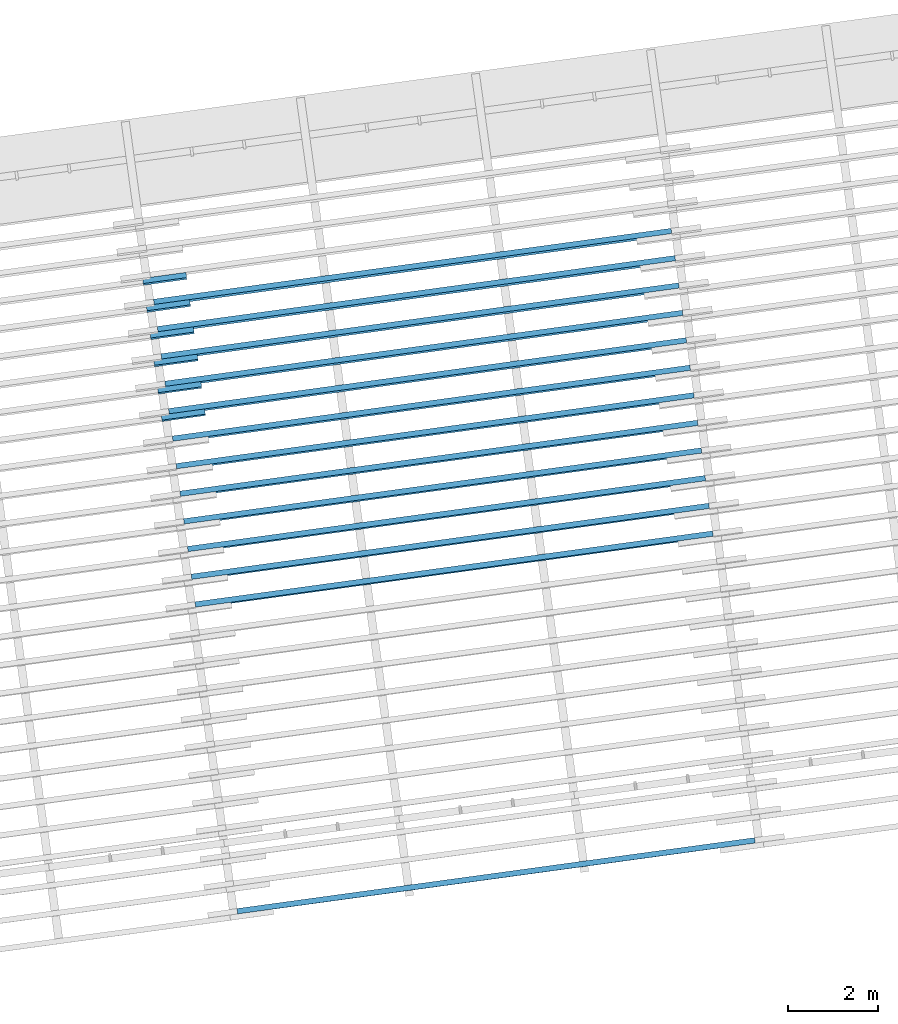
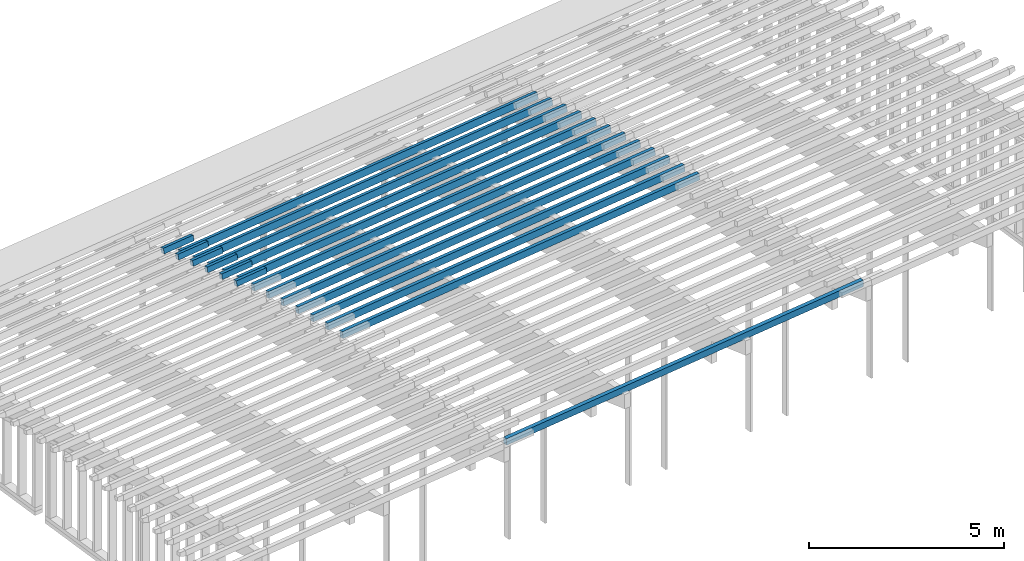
# One storey, part 9 of 18: 19 building element parts, 19 elements without a shape of their own.
"""IFC2X3 building model written with IfcOpenShell, lengths in metres."""

from ifc_helpers import new_model, entity, si_unit, converted_unit, derived_unit, money_unit, direction, frame, origin_with_axes, place, context, subcontext, project, spatial, faceted_brep, material, type_object, element, aggregate, save


model = new_model("IFC2X3")

# Units and contexts
model_context = context("Model", 3, precision=1e-05, world=origin_with_axes(), true_north=direction((0.0, 1.0)))
body_context = subcontext(model_context, "Body", "Model", "MODEL_VIEW")
ifc_project = project(units=[si_unit("LENGTHUNIT", "METRE"), si_unit("AREAUNIT", "SQUARE_METRE"), si_unit("VOLUMEUNIT", "CUBIC_METRE"), converted_unit("PLANEANGLEUNIT", "DEGREE", entity("IfcPlaneAngleMeasure", 0.0174532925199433), si_unit("PLANEANGLEUNIT", "RADIAN"), dimensions=[0, 0, 0, 0, 0, 0, 0]), money_unit("EUR"), converted_unit("TIMEUNIT", "Year", entity("IfcTimeMeasure", 31557600.0), si_unit("TIMEUNIT", "SECOND"), dimensions=[0, 0, 1, 0, 0, 0, 0]), si_unit("MASSUNIT", "GRAM", prefix="KILO"), si_unit("THERMODYNAMICTEMPERATUREUNIT", "DEGREE_CELSIUS"), si_unit("LUMINOUSINTENSITYUNIT", "LUMEN"), si_unit("ENERGYUNIT", "JOULE", prefix="MEGA"), derived_unit("THERMALCONDUCTANCEUNIT", [(si_unit("POWERUNIT", "WATT"), 1), (si_unit("LENGTHUNIT", "METRE"), -1), (si_unit("THERMODYNAMICTEMPERATUREUNIT", "KELVIN"), -1)]), derived_unit("SPECIFICHEATCAPACITYUNIT", [(si_unit("ENERGYUNIT", "JOULE"), 1), (si_unit("MASSUNIT", "GRAM", prefix="KILO"), -1), (si_unit("THERMODYNAMICTEMPERATUREUNIT", "KELVIN"), -1)]), derived_unit("MASSDENSITYUNIT", [(si_unit("MASSUNIT", "GRAM", prefix="KILO"), 1), (si_unit("VOLUMEUNIT", "CUBIC_METRE"), -1)])], contexts=[model_context])

# Site, building, storey
site_placement = place(None, origin_with_axes())
site = spatial("IfcSite", under=ifc_project, at=site_placement, Name="Gelände", CompositionType="ELEMENT")
building_placement = place(site_placement, origin_with_axes())
building = spatial("IfcBuilding", under=site, at=building_placement, Name="Gebäude", CompositionType="ELEMENT")
storey_placement = place(building_placement, frame((0.0, 0.0, 5.5), z_axis=(0.0, 0.0, 1.0), x_axis=(1.0, 0.0, 0.0)))
storey = spatial("IfcBuildingStorey", under=building, at=storey_placement, Name="OG", CompositionType="ELEMENT", Elevation=5.5)

# Beam, building element part
beam_type_1 = type_object("IfcBeamType", Name="Verschiedene Strukturen - 3 Segmente - 120 x 200 x 12890 (660+11570+660)", PredefinedType="NOTDEFINED")
beam_1_placement = place(storey_placement, frame((93.96465668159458, -151.5168420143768, 4.983247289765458), z_axis=(0.0, 0.0, 1.0), x_axis=(0.1357111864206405, -0.9907484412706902, 0.0)))
beam_1 = element("IfcBeam", 1, at=beam_1_placement, inside=storey, type_object=beam_type_1, Name="Unterzug-031")
ifc_material = material(Name="Bauholz")
building_element_part_1_placement = place(beam_1_placement, origin_with_axes())
building_element_part_1 = element("IfcBuildingElementPart", 2, at=building_element_part_1_placement, material=ifc_material, Name="Bauholz", context=body_context, shape_type="Brep", body=[
    faceted_brep([(0.05999779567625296, 12.22957971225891, 0.0005610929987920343), (0.0598120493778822, 12.2295797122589, 0.0005592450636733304), (0.06140376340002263, 12.2295797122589, -0.1594328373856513), (0.06209214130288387, 12.22957971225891, -0.159425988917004), (0.06261277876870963, 12.2295797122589, -0.19919748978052), (-0.05737694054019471, 12.2295797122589, -0.2007682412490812), (-0.05999485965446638, 12.22957971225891, -0.0007853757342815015), (0.05999485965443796, 12.22957971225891, 0.0007853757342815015), (0.0598120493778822, 11.43763277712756, 0.0005592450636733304), (0.05999779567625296, 11.43763277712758, 0.000561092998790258), (0.06140376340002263, 11.43763277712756, -0.1594328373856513), (0.06209214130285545, 11.43763277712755, -0.159425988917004), (0.05999485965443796, 0.6599999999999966, 0.0007853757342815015), (0.05999779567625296, 0.6600000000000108, 0.0005610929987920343), (0.05999779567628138, 1.451946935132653, 0.0005610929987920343), (0.06209214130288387, 1.451946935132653, -0.159425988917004), (0.06209214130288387, 0.6600000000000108, -0.1594259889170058), (0.06261277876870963, 0.6600000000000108, -0.19919748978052), (-0.05737694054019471, 0.6600000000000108, -0.2007682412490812), (-0.05999485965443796, 0.6600000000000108, -0.0007853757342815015), (0.06140376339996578, 0.6600000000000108, -0.1594328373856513), (0.05981204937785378, 0.6600000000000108, 0.0005592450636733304), (0.05981204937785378, 1.451946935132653, 0.0005592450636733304), (0.0614037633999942, 1.451946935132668, -0.1594328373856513)], [[[0, 1, 2, 3, 4, 5, 6, 7]], [[8, 1, 0, 9]], [[10, 2, 1, 8]], [[10, 11, 3, 2]], [[11, 9, 0, 7, 12, 13, 14, 15, 16, 17, 4, 3]], [[4, 17, 18, 5]], [[5, 18, 19, 6]], [[6, 19, 12, 7]], [[8, 9, 11, 10]], [[16, 20, 21, 13, 12, 19, 18, 17]], [[21, 22, 14, 13]], [[22, 23, 15, 14]], [[23, 20, 16, 15]], [[23, 22, 21, 20]]]),
])
aggregate(beam_1, [building_element_part_1])

beam_type_2 = type_object("IfcBeamType", Name="Verschiedene Strukturen - 4 Segmente - 120 x 200 x 9525 (970+7659+706+190)", PredefinedType="NOTDEFINED")
beam_2_placement = place(storey_placement, frame((93.90193320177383, -140.360133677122, 3.864643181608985), z_axis=(0.0, 0.0, 1.0), x_axis=(-0.1357111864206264, 0.9907484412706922, 0.0)))
beam_2 = element("IfcBeam", 3, at=beam_2_placement, inside=storey, type_object=beam_type_2, Name="Unterzug-031")
building_element_part_2_placement = place(beam_2_placement, origin_with_axes())
building_element_part_2 = element("IfcBuildingElementPart", 4, at=building_element_part_2_placement, material=ifc_material, Name="Bauholz", context=body_context, shape_type="Brep", body=[
    faceted_brep([(0.05890385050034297, 0.0, -0.01141649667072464), (0.05890385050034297, 0.9699999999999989, -0.01141649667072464), (-0.05890385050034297, 0.9700000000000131, 0.01141649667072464), (-0.05890385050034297, 0.0, 0.01141649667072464), (0.02845985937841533, 0.0, -0.1684934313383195), (0.02845985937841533, 0.9699999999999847, -0.1684934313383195), (-0.08934784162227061, 0.9699999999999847, -0.1456604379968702), (-0.08934784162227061, 0.0, -0.1456604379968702)], [[[0, 1, 2, 3]], [[4, 5, 1, 0]], [[2, 1, 5, 6]], [[3, 2, 6, 7]], [[4, 0, 3, 7]], [[7, 6, 5, 4]]]),
])
aggregate(beam_2, [building_element_part_2])

beam_type_3 = type_object("IfcBeamType", Name="Verschiedene Strukturen - 4 Segmente - 120 x 200 x 9492 (970+7659+673+190)", PredefinedType="NOTDEFINED")
beam_3_placement = place(storey_placement, frame((93.81870340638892, -139.7525213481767, 3.742971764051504), z_axis=(0.0, 0.0, 1.0), x_axis=(-0.1357111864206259, 0.9907484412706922, 0.0)))
beam_3 = element("IfcBeam", 5, at=beam_3_placement, inside=storey, type_object=beam_type_3, Name="Unterzug-031")
building_element_part_3_placement = place(beam_3_placement, origin_with_axes())
building_element_part_3 = element("IfcBuildingElementPart", 6, at=building_element_part_3_placement, material=ifc_material, Name="Bauholz", context=body_context, shape_type="Brep", body=[
    faceted_brep([(0.05877971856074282, 0.0, -0.01203929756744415), (0.05877971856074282, 0.9699999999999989, -0.01203929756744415), (-0.05877971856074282, 0.9699999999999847, 0.01203929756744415), (-0.05877971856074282, 0.0, 0.01203929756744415), (0.02667492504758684, 0.0, -0.1687852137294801), (0.02667492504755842, 0.9699999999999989, -0.1687852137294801), (-0.09088451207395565, 0.9699999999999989, -0.14470661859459), (-0.09088451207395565, 0.0, -0.14470661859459)], [[[0, 1, 2, 3]], [[4, 5, 1, 0]], [[2, 1, 5, 6]], [[3, 2, 6, 7]], [[4, 0, 3, 7]], [[7, 6, 5, 4]]]),
])
aggregate(beam_3, [building_element_part_3])

beam_type_4 = type_object("IfcBeamType", Name="Verschiedene Strukturen - 4 Segmente - 120 x 200 x 9463 (970+7659+644+190)", PredefinedType="NOTDEFINED")
beam_4_placement = place(storey_placement, frame((93.73565060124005, -139.1462011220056, 3.614903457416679), z_axis=(0.0, 0.0, 1.0), x_axis=(-0.1357111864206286, 0.9907484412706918, 0.0)))
beam_4 = element("IfcBeam", 7, at=beam_4_placement, inside=storey, type_object=beam_type_4, Name="Unterzug-031")
building_element_part_4_placement = place(beam_4_placement, origin_with_axes())
building_element_part_4 = element("IfcBuildingElementPart", 8, at=building_element_part_4_placement, material=ifc_material, Name="Bauholz", context=body_context, shape_type="Brep", body=[
    faceted_brep([(0.05864897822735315, 0.0, -0.0126608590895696), (0.05864897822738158, 0.9699999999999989, -0.0126608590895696), (-0.05864897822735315, 0.9700000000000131, 0.0126608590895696), (-0.05864897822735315, 0.0, 0.0126608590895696), (0.02488668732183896, 0.0, -0.1690581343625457), (0.02488668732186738, 0.9699999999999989, -0.1690581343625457), (-0.09241126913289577, 0.9700000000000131, -0.1437364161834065), (-0.09241126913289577, 0.0, -0.1437364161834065)], [[[0, 1, 2, 3]], [[4, 5, 1, 0]], [[2, 1, 5, 6]], [[3, 2, 6, 7]], [[4, 0, 3, 7]], [[7, 6, 5, 4]]]),
])
aggregate(beam_4, [building_element_part_4])

beam_type_5 = type_object("IfcBeamType", Name="Verschiedene Strukturen - 4 Segmente - 120 x 200 x 9437 (970+7659+618+190)", PredefinedType="NOTDEFINED")
beam_5_placement = place(storey_placement, frame((93.65277518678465, -138.5411759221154, 3.480744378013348), z_axis=(0.0, 0.0, 1.0), x_axis=(-0.1357111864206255, 0.9907484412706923, 0.0)))
beam_5 = element("IfcBeam", 9, at=beam_5_placement, inside=storey, type_object=beam_type_5, Name="Unterzug-031")
building_element_part_5_placement = place(beam_5_placement, origin_with_axes())
building_element_part_5 = element("IfcBuildingElementPart", 10, at=building_element_part_5_placement, material=ifc_material, Name="Bauholz", context=body_context, shape_type="Brep", body=[
    faceted_brep([(0.05851170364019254, 0.0, -0.01328083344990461), (0.05851170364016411, 0.9699999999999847, -0.01328083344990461), (-0.05851170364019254, 0.9699999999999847, 0.01328083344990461), (-0.05851170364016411, 0.0, 0.01328083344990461), (0.02309614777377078, 0.0, -0.1693120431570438), (0.02309614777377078, 0.9699999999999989, -0.1693120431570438), (-0.09392725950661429, 0.9699999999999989, -0.1427503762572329), (-0.09392725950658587, 0.0, -0.1427503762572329)], [[[0, 1, 2, 3]], [[4, 5, 1, 0]], [[2, 1, 5, 6]], [[3, 2, 6, 7]], [[4, 0, 3, 7]], [[7, 6, 5, 4]]]),
])
aggregate(beam_5, [building_element_part_5])

beam_type_6 = type_object("IfcBeamType", Name="Verschiedene Strukturen - 4 Segmente - 120 x 200 x 9414 (970+7659+595+190)", PredefinedType="NOTDEFINED")
beam_6_placement = place(storey_placement, frame((93.57008836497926, -137.9375275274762, 3.340410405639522), z_axis=(0.0, 0.0, 1.0), x_axis=(-0.1357111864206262, 0.9907484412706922, 0.0)))
beam_6 = element("IfcBeam", 11, at=beam_6_placement, inside=storey, type_object=beam_type_6, Name="Unterzug-031")
building_element_part_6_placement = place(beam_6_placement, origin_with_axes())
building_element_part_6 = element("IfcBuildingElementPart", 12, at=building_element_part_6_placement, material=ifc_material, Name="Bauholz", context=body_context, shape_type="Brep", body=[
    faceted_brep([(0.05836784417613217, 0.0, -0.01389945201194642), (0.05836784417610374, 0.9699999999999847, -0.01389945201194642), (-0.05836784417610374, 0.9699999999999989, 0.01389945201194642), (-0.05836784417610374, 0.0, 0.01389945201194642), (0.02130263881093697, 0.0, -0.1695470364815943), (0.02130263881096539, 0.9699999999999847, -0.1695470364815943), (-0.09543304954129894, 0.9699999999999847, -0.1417481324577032), (-0.09543304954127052, 0.0, -0.1417481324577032)], [[[0, 1, 2, 3]], [[4, 5, 1, 0]], [[2, 1, 5, 6]], [[3, 2, 6, 7]], [[4, 0, 3, 7]], [[7, 6, 5, 4]]]),
])
aggregate(beam_6, [building_element_part_6])

beam_type_7 = type_object("IfcBeamType", Name="Verschiedene Strukturen - 4 Segmente - 120 x 200 x 9394 (970+7659+575+190)", PredefinedType="NOTDEFINED")
beam_7_placement = place(storey_placement, frame((93.48759860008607, -137.3353177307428, 3.193916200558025), z_axis=(0.0, 0.0, 1.0), x_axis=(-0.1357111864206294, 0.9907484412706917, 0.0)))
beam_7 = element("IfcBeam", 13, at=beam_7_placement, inside=storey, type_object=beam_type_7, Name="Unterzug-031")
building_element_part_7_placement = place(beam_7_placement, origin_with_axes())
building_element_part_7 = element("IfcBuildingElementPart", 14, at=building_element_part_7_placement, material=ifc_material, Name="Bauholz", context=body_context, shape_type="Brep", body=[
    faceted_brep([(0.05821747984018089, 0.0, -0.01451637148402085), (0.05821747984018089, 0.9700000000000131, -0.01451637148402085), (-0.05821747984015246, 0.9700000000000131, 0.01451637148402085), (-0.05821747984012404, 0.0, 0.01451637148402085), (0.01950715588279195, 0.0, -0.1697629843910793), (0.01950715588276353, 0.9699999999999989, -0.1697629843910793), (-0.09692780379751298, 0.9699999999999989, -0.1407302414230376), (-0.09692780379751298, 0.0, -0.1407302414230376)], [[[0, 1, 2, 3]], [[4, 5, 1, 0]], [[2, 1, 5, 6]], [[3, 2, 6, 7]], [[4, 0, 3, 7]], [[7, 6, 5, 4]]]),
])
aggregate(beam_7, [building_element_part_7])

beam_8_placement = place(storey_placement, frame((92.94976169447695, -144.1076839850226, 4.448573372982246), z_axis=(0.0, 0.0, 1.0), x_axis=(0.1357111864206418, -0.9907484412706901, 0.0)))
beam_8 = element("IfcBeam", 15, at=beam_8_placement, inside=storey, type_object=beam_type_1, Name="Unterzug-031")
building_element_part_8_placement = place(beam_8_placement, origin_with_axes())
building_element_part_8 = element("IfcBuildingElementPart", 16, at=building_element_part_8_placement, material=ifc_material, Name="Bauholz", context=body_context, shape_type="Brep", body=[
    faceted_brep([(0.05948755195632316, 12.22957971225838, 0.007870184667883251), (0.08026099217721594, 12.22957971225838, -0.1507755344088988), (0.0805597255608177, 12.22957971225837, -0.1507364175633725), (0.08582455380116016, 12.22957971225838, -0.1903526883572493), (-0.0331296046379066, 12.22957971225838, -0.2061611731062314), (-0.05947707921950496, 12.22957971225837, -0.007904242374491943), (0.08026099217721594, 11.43763277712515, -0.1507755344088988), (0.05948755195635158, 11.43763277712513, 0.007870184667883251), (0.0805597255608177, 11.43763277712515, -0.1507364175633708), (0.05948755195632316, 1.451946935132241, 0.007870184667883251), (0.08055972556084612, 1.451946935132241, -0.1507364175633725), (0.0805597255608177, 0.6600000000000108, -0.1507364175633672), (0.08582455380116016, 0.660000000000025, -0.1903526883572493), (-0.03312960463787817, 0.6599999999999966, -0.2061611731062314), (-0.05947707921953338, 0.660000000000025, -0.007904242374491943), (0.05948755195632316, 0.6599999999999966, 0.007870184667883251), (0.08026099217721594, 1.451946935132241, -0.1507755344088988), (0.08026099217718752, 0.6599999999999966, -0.1507755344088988)], [[[0, 1, 2, 3, 4, 5]], [[6, 1, 0, 7]], [[8, 2, 1, 6]], [[2, 8, 7, 9, 10, 11, 12, 3]], [[3, 12, 13, 4]], [[4, 13, 14, 5]], [[9, 7, 0, 5, 14, 15]], [[6, 7, 8]], [[16, 10, 9]], [[11, 10, 16, 17]], [[14, 13, 12, 11, 17, 15]], [[15, 17, 16, 9]]]),
])
aggregate(beam_8, [building_element_part_8])

beam_9_placement = place(storey_placement, frame((93.0339298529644, -144.7221467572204, 4.527794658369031), z_axis=(0.0, 0.0, 1.0), x_axis=(0.1357111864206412, -0.9907484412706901, 0.0)))
beam_9 = element("IfcBeam", 17, at=beam_9_placement, inside=storey, type_object=beam_type_1, Name="Unterzug-031")
building_element_part_9_placement = place(beam_9_placement, origin_with_axes())
building_element_part_9 = element("IfcBuildingElementPart", 18, at=building_element_part_9_placement, material=ifc_material, Name="Bauholz", context=body_context, shape_type="Brep", body=[
    faceted_brep([(0.05955404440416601, 12.2295797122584, 0.00730176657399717), (0.0598492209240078, 12.2295797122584, 0.004894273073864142), (0.07866969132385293, 12.22957971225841, -0.1515453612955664), (0.07902464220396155, 12.22957971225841, -0.1515026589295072), (0.08389326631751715, 12.22957971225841, -0.1912117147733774), (-0.03521482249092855, 12.2295797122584, -0.20581524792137), (-0.05955404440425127, 12.2295797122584, -0.00730176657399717), (0.05984922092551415, 12.0661895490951, 0.004894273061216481), (0.07866969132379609, 11.43763277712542, -0.1515453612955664), (0.05983201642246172, 11.4376327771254, 0.005037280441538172), (0.07902464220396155, 11.4376327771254, -0.1515026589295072), (0.06098475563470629, 11.4376327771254, -0.004367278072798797), (0.07902464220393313, 1.451946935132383, -0.1515026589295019), (0.07902464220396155, 0.6599999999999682, -0.1515026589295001), (0.08389326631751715, 0.6599999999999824, -0.1912117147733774), (-0.03521482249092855, 0.6599999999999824, -0.20581524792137), (-0.05955404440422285, 0.6599999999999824, -0.00730176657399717), (0.0595586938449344, 1.451946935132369, 0.007309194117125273), (0.07866969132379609, 1.451946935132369, -0.1515453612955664), (0.07866969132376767, 0.6599999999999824, -0.1515453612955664), (0.0595586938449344, 0.6599999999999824, 0.007309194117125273)], [[[0, 1, 2, 3, 4, 5, 6]], [[0, 7, 1]], [[8, 2, 1, 7, 9]], [[8, 10, 3, 2]], [[3, 10, 11, 12, 13, 14, 4]], [[15, 5, 4, 14]], [[16, 6, 5, 15]], [[0, 6, 17]], [[11, 9, 7, 0, 17, 12]], [[9, 11, 10, 8]], [[13, 12, 18, 19]], [[16, 15, 14, 13, 19, 20]], [[20, 17, 6, 16]], [[18, 12, 17]], [[20, 19, 18, 17]]]),
])
aggregate(beam_9, [building_element_part_9])

beam_10_placement = place(storey_placement, frame((92.11571971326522, -138.0188285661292, 3.312943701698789), z_axis=(0.0, 0.0, 1.0), x_axis=(0.1357111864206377, -0.9907484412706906, 0.0)))
beam_10 = element("IfcBeam", 19, at=beam_10_placement, inside=storey, type_object=beam_type_1, Name="Unterzug-031")
building_element_part_10_placement = place(beam_10_placement, origin_with_axes())
building_element_part_10 = element("IfcBuildingElementPart", 20, at=building_element_part_10_placement, material=ifc_material, Name="Bauholz", context=body_context, shape_type="Brep", body=[
    faceted_brep([(0.104699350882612, 12.2295797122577, -0.1806600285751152), (0.104699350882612, 0.6600000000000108, -0.1806600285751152), (-0.01203633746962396, 0.6600000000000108, -0.2084589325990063), (-0.01203633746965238, 12.2295797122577, -0.2084589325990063), (0.05836784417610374, 12.2295797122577, 0.01389945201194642), (0.05836784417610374, 0.6600000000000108, 0.01389945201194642), (-0.05836784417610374, 0.6599999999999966, -0.01389945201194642), (-0.05836784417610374, 12.2295797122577, -0.01389945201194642)], [[[0, 1, 2, 3]], [[4, 5, 1, 0]], [[1, 5, 6, 2]], [[3, 2, 6, 7]], [[7, 4, 0, 3]], [[7, 6, 5, 4]]]),
])
aggregate(beam_10, [building_element_part_10])

beam_11_placement = place(storey_placement, frame((92.19837051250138, -138.6222139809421, 3.454434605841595), z_axis=(0.0, 0.0, 1.0), x_axis=(0.1357111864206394, -0.9907484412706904, 0.0)))
beam_11 = element("IfcBeam", 21, at=beam_11_placement, inside=storey, type_object=beam_type_1, Name="Unterzug-031")
building_element_part_11_placement = place(beam_11_placement, origin_with_axes())
building_element_part_11 = element("IfcBuildingElementPart", 22, at=building_element_part_11_placement, material=ifc_material, Name="Bauholz", context=body_context, shape_type="Brep", body=[
    faceted_brep([(0.1027811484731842, 12.22957971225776, -0.1817581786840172), (0.1027811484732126, 0.6600000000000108, -0.1817581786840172), (-0.01424225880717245, 0.6600000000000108, -0.2083198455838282), (-0.01424225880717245, 12.22957971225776, -0.2083198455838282), (0.05851170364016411, 12.22957971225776, 0.01328083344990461), (0.05851170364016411, 0.6600000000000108, 0.01328083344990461), (-0.05851170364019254, 0.6600000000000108, -0.01328083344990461), (-0.05851170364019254, 12.22957971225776, -0.01328083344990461)], [[[0, 1, 2, 3]], [[4, 5, 1, 0]], [[1, 5, 6, 2]], [[3, 2, 6, 7]], [[7, 4, 0, 3]], [[7, 6, 5, 4]]]),
])
aggregate(beam_11, [building_element_part_11])

beam_12_placement = place(storey_placement, frame((92.28121145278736, -139.2269875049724, 3.589753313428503), z_axis=(0.0, 0.0, 1.0), x_axis=(0.1357111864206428, -0.9907484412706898, 0.0)))
beam_12 = element("IfcBeam", 23, at=beam_12_placement, inside=storey, type_object=beam_type_1, Name="Unterzug-031")
building_element_part_12_placement = place(beam_12_placement, origin_with_axes())
building_element_part_12 = element("IfcBuildingElementPart", 24, at=building_element_part_12_placement, material=ifc_material, Name="Bauholz", context=body_context, shape_type="Brep", body=[
    faceted_brep([(0.1008518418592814, 12.22957971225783, -0.1828357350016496), (0.1008518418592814, 0.6599999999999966, -0.1828357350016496), (-0.01644611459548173, 0.6599999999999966, -0.2081574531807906), (-0.01644611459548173, 12.22957971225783, -0.2081574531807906), (0.05864897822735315, 12.22957971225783, 0.0126608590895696), (0.05864897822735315, 0.6599999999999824, 0.0126608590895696), (-0.05864897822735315, 0.6599999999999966, -0.0126608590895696), (-0.05864897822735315, 12.22957971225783, -0.0126608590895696)], [[[0, 1, 2, 3]], [[4, 5, 1, 0]], [[1, 5, 6, 2]], [[3, 2, 6, 7]], [[7, 4, 0, 3]], [[7, 6, 5, 4]]]),
])
aggregate(beam_12, [building_element_part_12])

beam_13_placement = place(storey_placement, frame((92.36423404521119, -139.8330871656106, 3.718885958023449), z_axis=(0.0, 0.0, 1.0), x_axis=(0.1357111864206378, -0.9907484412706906, 0.0)))
beam_13 = element("IfcBeam", 25, at=beam_13_placement, inside=storey, type_object=beam_type_1, Name="Unterzug-031")
building_element_part_13_placement = place(beam_13_placement, origin_with_axes())
building_element_part_13 = element("IfcBuildingElementPart", 26, at=building_element_part_13_placement, material=ifc_material, Name="Bauholz", context=body_context, shape_type="Brep", body=[
    faceted_brep([(-0.01864872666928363, 0.6600000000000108, -0.2079716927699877), (-0.01864872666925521, 12.2295797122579, -0.2079716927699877), (0.09891071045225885, 12.2295797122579, -0.1838930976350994), (0.09891071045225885, 0.6600000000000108, -0.1838930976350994), (-0.05877971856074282, 0.6600000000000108, -0.01203929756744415), (-0.05877971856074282, 12.22957971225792, -0.01203929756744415), (0.05877971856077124, 12.22957971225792, 0.01203929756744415), (0.05877971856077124, 0.6600000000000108, 0.01203929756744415)], [[[0, 1, 2, 3]], [[4, 5, 1, 0]], [[2, 1, 5, 6]], [[3, 2, 6, 7]], [[4, 0, 3, 7]], [[7, 6, 5, 4]]]),
])
aggregate(beam_13, [building_element_part_13])

beam_14_placement = place(storey_placement, frame((92.44742978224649, -140.4404508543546, 3.841819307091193), z_axis=(0.0, 0.0, 1.0), x_axis=(0.1357111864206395, -0.9907484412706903, 0.0)))
beam_14 = element("IfcBeam", 27, at=beam_14_placement, inside=storey, type_object=beam_type_1, Name="Unterzug-031")
building_element_part_14_placement = place(beam_14_placement, origin_with_axes())
building_element_part_14 = element("IfcBuildingElementPart", 28, at=building_element_part_14_placement, material=ifc_material, Name="Bauholz", context=body_context, shape_type="Brep", body=[
    faceted_brep([(0.0969588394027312, 12.22957971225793, -0.1849296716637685), (0.09695883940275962, 0.6599999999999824, -0.1849296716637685), (-0.02084886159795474, 0.6599999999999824, -0.2077626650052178), (-0.02084886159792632, 12.22957971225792, -0.2077626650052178), (0.05890385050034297, 12.22957971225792, 0.01141649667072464), (0.05890385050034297, 0.6599999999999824, 0.01141649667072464), (-0.05890385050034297, 0.6599999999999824, -0.01141649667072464), (-0.05890385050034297, 12.22957971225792, -0.01141649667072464)], [[[0, 1, 2, 3]], [[4, 5, 1, 0]], [[1, 5, 6, 2]], [[3, 2, 6, 7]], [[7, 4, 0, 3]], [[7, 6, 5, 4]]]),
])
aggregate(beam_14, [building_element_part_14])

beam_15_placement = place(storey_placement, frame((92.5307901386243, -141.0490163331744, 3.958540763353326), z_axis=(0.0, 0.0, 1.0), x_axis=(0.1357111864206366, -0.9907484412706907, 0.0)))
beam_15 = element("IfcBeam", 29, at=beam_15_placement, inside=storey, type_object=beam_type_1, Name="Unterzug-031")
building_element_part_15_placement = place(beam_15_placement, origin_with_axes())
building_element_part_15 = element("IfcBuildingElementPart", 30, at=building_element_part_15_placement, material=ifc_material, Name="Bauholz", context=body_context, shape_type="Brep", body=[
    faceted_brep([(-0.05900101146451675, 12.22957971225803, -0.01090324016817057), (0.0590084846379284, 12.22957971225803, 0.0109084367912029), (0.08778810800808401, 12.22957971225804, -0.1464819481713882), (0.0880756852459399, 12.22957971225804, -0.1464293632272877), (0.09534514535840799, 12.22957971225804, -0.1857667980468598), (-0.02265687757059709, 12.22957971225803, -0.2075732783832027), (0.05900848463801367, 1.451946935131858, 0.0109084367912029), (0.05900848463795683, 11.43763277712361, 0.0109084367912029), (-0.05900101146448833, 0.6600000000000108, -0.01090324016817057), (0.05900848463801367, 0.6600000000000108, 0.0109084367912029), (0.08778810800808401, 11.43763277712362, -0.1464819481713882), (0.08807568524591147, 11.43763277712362, -0.1464293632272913), (0.0880756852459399, 1.451946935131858, -0.1464293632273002), (0.0880756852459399, 0.6600000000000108, -0.1464293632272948), (0.09534514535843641, 0.6600000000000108, -0.1857667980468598), (-0.02265687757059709, 0.6599999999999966, -0.2075732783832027), (0.08778810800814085, 0.6600000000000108, -0.1464819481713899), (0.08778810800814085, 1.451946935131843, -0.1464819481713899)], [[[0, 1, 2, 3, 4, 5]], [[6, 7, 1, 0, 8, 9]], [[10, 2, 1, 7]], [[10, 11, 3, 2]], [[3, 11, 7, 6, 12, 13, 14, 4]], [[4, 14, 15, 5]], [[5, 15, 8, 0]], [[14, 13, 16, 9, 8, 15]], [[17, 6, 9, 16]], [[10, 7, 11]], [[6, 17, 12]], [[17, 16, 13, 12]]]),
])
aggregate(beam_15, [building_element_part_15])

beam_16_placement = place(storey_placement, frame((92.61430657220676, -141.6587212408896, 4.069038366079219), z_axis=(0.0, 0.0, 1.0), x_axis=(0.1357111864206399, -0.9907484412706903, 0.0)))
beam_16 = element("IfcBeam", 31, at=beam_16_placement, inside=storey, type_object=beam_type_1, Name="Unterzug-031")
building_element_part_16_placement = place(beam_16_placement, origin_with_axes())
building_element_part_16 = element("IfcBuildingElementPart", 32, at=building_element_part_16_placement, material=ifc_material, Name="Bauholz", context=body_context, shape_type="Brep", body=[
    faceted_brep([(0.0591083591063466, 12.22957971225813, 0.01030542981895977), (0.05939163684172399, 12.22957971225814, 0.008680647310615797), (0.08620715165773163, 12.22957971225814, -0.1472810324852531), (0.08657231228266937, 12.22957971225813, -0.147218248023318), (0.0934597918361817, 12.22957971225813, -0.1867224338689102), (-0.0247569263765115, 12.22957971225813, -0.2073332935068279), (-0.05910835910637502, 12.22957971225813, -0.01030542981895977), (0.05939163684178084, 12.11841350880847, 0.008680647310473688), (0.08620715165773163, 11.43763277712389, -0.1472810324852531), (0.05937379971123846, 11.43763277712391, 0.00878438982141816), (0.08657231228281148, 11.43763277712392, -0.1472182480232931), (0.06112642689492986, 11.43763277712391, -0.001269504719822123), (0.08657231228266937, 1.451946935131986, -0.1472182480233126), (0.0865723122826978, 0.6600000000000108, -0.1472182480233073), (0.09345979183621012, 0.660000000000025, -0.1867224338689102), (-0.0247569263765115, 0.660000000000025, -0.2073332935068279), (-0.05910835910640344, 0.6600000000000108, -0.01030542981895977), (0.05911216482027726, 1.451946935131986, 0.01030608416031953), (0.05911216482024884, 0.6600000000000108, 0.01030608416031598), (0.08620715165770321, 1.451946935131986, -0.1472810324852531), (0.08620715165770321, 0.6600000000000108, -0.1472810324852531)], [[[0, 1, 2, 3, 4, 5, 6]], [[0, 7, 1]], [[8, 2, 1, 7, 9]], [[8, 10, 3, 2]], [[3, 10, 11, 12, 13, 14, 4]], [[15, 5, 4, 14]], [[16, 6, 5, 15]], [[17, 0, 6, 16, 18]], [[11, 9, 7, 0, 17, 12]], [[9, 11, 10, 8]], [[13, 12, 19, 20]], [[16, 15, 14, 13, 20, 18]], [[17, 18, 20, 19]], [[19, 12, 17]]]),
])
aggregate(beam_16, [building_element_part_16])

beam_17_placement = place(storey_placement, frame((92.7817734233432, -142.8812993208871, 4.271317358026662), z_axis=(0.0, 0.0, 1.0), x_axis=(0.1357111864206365, -0.9907484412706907, 0.0)))
beam_17 = element("IfcBeam", 33, at=beam_17_placement, inside=storey, type_object=beam_type_1, Name="Unterzug-031")
building_element_part_17_placement = place(beam_17_placement, origin_with_axes())
building_element_part_17 = element("IfcBuildingElementPart", 34, at=building_element_part_17_placement, material=ifc_material, Name="Bauholz", context=body_context, shape_type="Brep", body=[
    faceted_brep([(0.05930487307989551, 12.22957971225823, 0.009106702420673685), (0.05962203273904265, 12.22957971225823, 0.007041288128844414), (0.0830606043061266, 12.22957971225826, -0.1489921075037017), (0.08357035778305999, 12.22957971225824, -0.1489155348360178), (0.0896605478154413, 12.22957971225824, -0.1885762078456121), (-0.0289491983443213, 12.22957971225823, -0.2067896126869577), (-0.05930487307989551, 12.22957971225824, -0.009106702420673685), (0.05962203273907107, 12.08871171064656, 0.007041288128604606), (0.08306060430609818, 11.43763277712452, -0.1489921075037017), (0.05960303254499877, 11.43763277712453, 0.007167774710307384), (0.0835703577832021, 11.43763277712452, -0.1489155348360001), (0.06108791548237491, 11.43763277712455, -0.002504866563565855), (0.08357035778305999, 1.451946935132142, -0.1489155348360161), (0.08357035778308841, 0.6599999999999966, -0.1489155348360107), (0.0896605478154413, 0.6599999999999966, -0.1885762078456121), (-0.0289491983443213, 0.6599999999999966, -0.2067896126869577), (-0.05930487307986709, 0.6600000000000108, -0.009106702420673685), (0.0593116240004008, 1.451946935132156, 0.009107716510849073), (0.05931162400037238, 0.6599999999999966, 0.009107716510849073), (0.08306060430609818, 1.451946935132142, -0.1489921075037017), (0.08306060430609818, 0.6600000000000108, -0.1489921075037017)], [[[0, 1, 2, 3, 4, 5, 6]], [[0, 7, 1]], [[8, 2, 1, 7, 9]], [[8, 10, 3, 2]], [[3, 10, 11, 12, 13, 14, 4]], [[15, 5, 4, 14]], [[16, 6, 5, 15]], [[17, 0, 6, 16, 18]], [[11, 9, 7, 0, 17, 12]], [[9, 11, 10, 8]], [[13, 12, 19, 20]], [[16, 15, 14, 13, 20, 18]], [[17, 18, 20, 19]], [[19, 12, 17]]]),
])
aggregate(beam_17, [building_element_part_17])

beam_18_placement = place(storey_placement, frame((92.69797052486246, -142.26950309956, 4.17330079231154), z_axis=(0.0, 0.0, 1.0), x_axis=(0.1357111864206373, -0.9907484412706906, 0.0)))
beam_18 = element("IfcBeam", 35, at=beam_18_placement, inside=storey, type_object=beam_type_1, Name="Unterzug-031")
building_element_part_18_placement = place(beam_18_placement, origin_with_axes())
building_element_part_18 = element("IfcBuildingElementPart", 36, at=building_element_part_18_placement, material=ifc_material, Name="Bauholz", context=body_context, shape_type="Brep", body=[
    faceted_brep([(0.05920964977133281, 12.22957971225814, 0.009706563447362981), (0.05971427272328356, 12.22957971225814, 0.006628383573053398), (0.08469849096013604, 12.22957971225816, -0.1481422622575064), (0.0850766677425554, 12.22957971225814, -0.1480812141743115), (0.09156486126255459, 12.22957971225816, -0.1876589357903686), (-0.0268544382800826, 12.22957971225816, -0.2070720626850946), (-0.05920964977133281, 12.22957971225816, -0.009706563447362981), (0.0597142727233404, 12.01932583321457, 0.006628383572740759), (0.08469849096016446, 11.43763277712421, -0.1481422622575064), (0.0596869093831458, 11.43763277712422, 0.006797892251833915), (0.08507666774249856, 11.43763277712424, -0.1480812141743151), (0.06111037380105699, 11.43763277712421, -0.001887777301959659), (0.08507666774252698, 1.451946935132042, -0.1480812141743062), (0.08507666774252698, 0.6599999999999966, -0.1480812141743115), (0.09156486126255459, 0.660000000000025, -0.1876589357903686), (-0.02685443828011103, 0.660000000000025, -0.2070720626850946), (-0.05920964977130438, 0.6600000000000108, -0.009706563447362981), (0.05921717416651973, 1.451946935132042, 0.009707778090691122), (0.05921717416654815, 0.6600000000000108, 0.009707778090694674), (0.08469849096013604, 1.451946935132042, -0.1481422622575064), (0.08469849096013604, 0.6600000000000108, -0.1481422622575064)], [[[0, 1, 2, 3, 4, 5, 6]], [[0, 7, 1]], [[8, 2, 1, 7, 9]], [[8, 10, 3, 2]], [[3, 10, 11, 12, 13, 14, 4]], [[15, 5, 4, 14]], [[16, 6, 5, 15]], [[17, 0, 6, 16, 18]], [[11, 9, 7, 0, 17, 12]], [[9, 11, 10, 8]], [[13, 12, 19, 20]], [[16, 15, 14, 13, 20, 18]], [[17, 18, 20, 19]], [[19, 12, 17]]]),
])
aggregate(beam_18, [building_element_part_18])

beam_19_placement = place(storey_placement, frame((92.86570668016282, -143.4940472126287, 4.363078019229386), z_axis=(0.0, 0.0, 1.0), x_axis=(0.1357111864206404, -0.9907484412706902, 0.0)))
beam_19 = element("IfcBeam", 37, at=beam_19_placement, inside=storey, type_object=beam_type_1, Name="Unterzug-031")
building_element_part_19_placement = place(beam_19_placement, origin_with_axes())
building_element_part_19 = element("IfcBuildingElementPart", 38, at=building_element_part_19_placement, material=ifc_material, Name="Bauholz", context=body_context, shape_type="Brep", body=[
    faceted_brep([(-0.05939401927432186, 12.22957971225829, -0.008505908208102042), (0.05938295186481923, 12.22957971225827, 0.008504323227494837), (0.081663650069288, 12.22957971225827, -0.1498305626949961), (0.08206160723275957, 12.22957971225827, -0.1497745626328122), (0.08774704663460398, 12.22957971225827, -0.1894741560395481), (-0.03104099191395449, 12.22957971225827, -0.2064859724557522), (0.05939401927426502, 11.43763277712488, 0.008505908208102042), (0.05938295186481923, 11.43763277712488, 0.00850432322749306), (-0.05939401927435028, 0.6599999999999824, -0.008505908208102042), (0.05938295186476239, 0.6599999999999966, 0.008504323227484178), (0.05938295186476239, 1.45194693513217, 0.008504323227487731), (0.05939401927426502, 1.45194693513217, 0.008505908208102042), (0.08166365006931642, 11.43763277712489, -0.1498305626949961), (0.08206160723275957, 11.43763277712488, -0.149774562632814), (0.08206160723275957, 1.451946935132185, -0.1497745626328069), (0.08206160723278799, 0.6599999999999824, -0.1497745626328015), (0.0877470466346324, 0.6599999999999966, -0.1894741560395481), (-0.03104099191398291, 0.6599999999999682, -0.2064859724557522), (0.08166365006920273, 0.6599999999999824, -0.1498305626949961), (0.08166365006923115, 1.45194693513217, -0.1498305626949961)], [[[0, 1, 2, 3, 4, 5]], [[6, 7, 1, 0, 8, 9, 10, 11]], [[12, 2, 1, 7]], [[12, 13, 3, 2]], [[3, 13, 6, 11, 14, 15, 16, 4]], [[4, 16, 17, 5]], [[5, 17, 8, 0]], [[7, 6, 13, 12]], [[16, 15, 18, 9, 8, 17]], [[18, 19, 10, 9]], [[10, 19, 14, 11]], [[19, 18, 15, 14]]]),
])
aggregate(beam_19, [building_element_part_19])

save(model, "model.ifc")
